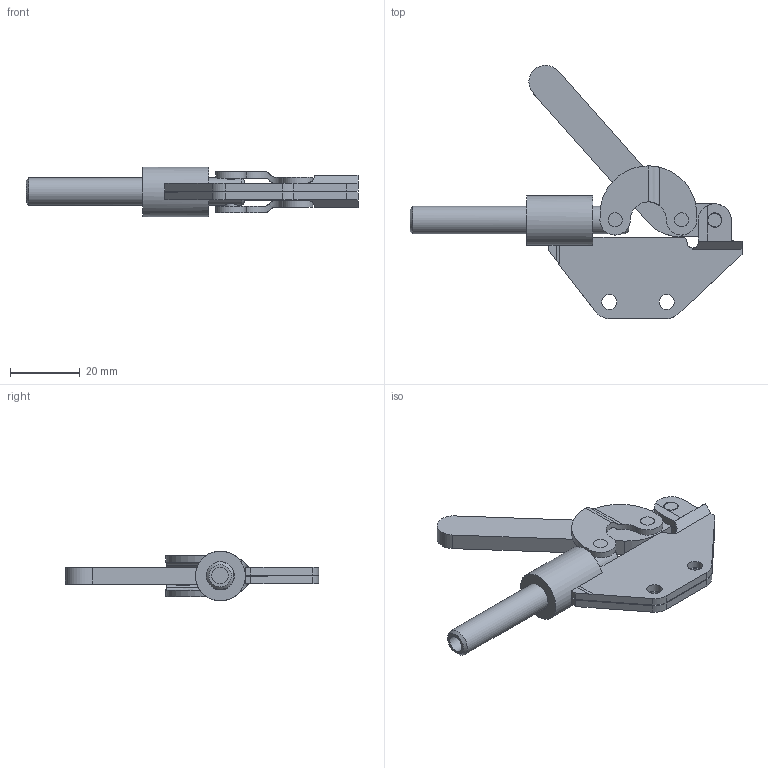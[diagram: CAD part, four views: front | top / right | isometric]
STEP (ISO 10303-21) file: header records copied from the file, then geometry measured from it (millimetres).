
FILE_DESCRIPTION((' '),'2;1');
FILE_NAME('C:\Users\Nick\Desktop\PHL-251\3D\PHL-251.stp','2015-05-29T12:40:04',(' '),(' '),' ','ACIS',' ');
FILE_SCHEMA(('CONFIG_CONTROL_DESIGN'));
Length unit declared in the file: inch
Products named in the file (10): C:\Users\Nick\Desktop\PHL-251\3D\PHL-251.stp; Body1; Body2; Body3; Body4; Body5; Body6; Body7; Body8; Body9
Assembly tree (9 placements, depth 2):
  C:\Users\Nick\Desktop\PHL-251\3D\PHL-251.stp
    Body1
    Body2
    Body3
    Body4
    Body5
    Body6
    Body7
    Body8
    Body9
Bounding box: 95.25 x 72.67 x 14.29 mm (x, y, z)
Volume: 14267.5 mm3; surface area: 12835.3 mm2
Topology: 8 solids, 8 shells, 197 faces, 536 edges, 355 vertices
Faces by surface type: plane 92, cylinder 54, bspline 49, cone 2
Full cylindrical faces by diameter (mm): 3.962 x1, 3.969 x1, 4.013 x5, 4.366 x4, 4.763 x1, 7.938 x1, 7.976 x1, 14.288 x1
Entity records: 7930 total; most frequent: CARTESIAN_POINT 1675, ORIENTED_EDGE 1018, DIRECTION 974, EDGE_CURVE 509, VERTEX_POINT 349, VECTOR 342, LINE 342, AXIS2_PLACEMENT_3D 316
